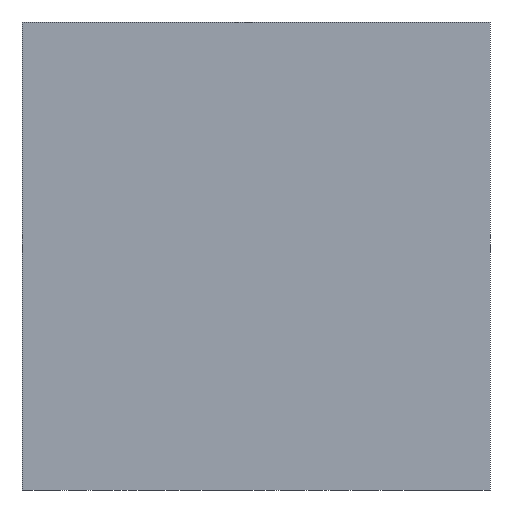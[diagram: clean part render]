
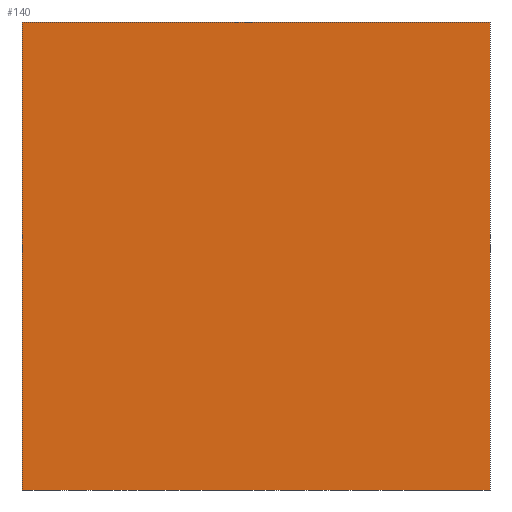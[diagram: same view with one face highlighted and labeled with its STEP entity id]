
A CAD part, front view. The second image highlights one B-rep face of the part: STEP entity #140.
In plain terms, the highlighted planar face has unit normal (0, -1, 0).
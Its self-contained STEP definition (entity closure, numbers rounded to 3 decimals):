
#129 = EDGE_CURVE ( 'NONE', #147, #134, #969, .T. ) ;
#131 = ORIENTED_EDGE ( 'NONE', *, *, #132, .F. ) ;
#132 = EDGE_CURVE ( 'NONE', #134, #136, #970, .T. ) ;
#133 = EDGE_CURVE ( 'NONE', #144, #136, #956, .T. ) ;
#134 = VERTEX_POINT ( 'NONE', #955 ) ;
#135 = ORIENTED_EDGE ( 'NONE', *, *, #138, .T. ) ;
#136 = VERTEX_POINT ( 'NONE', #954 ) ;
#137 = ORIENTED_EDGE ( 'NONE', *, *, #133, .T. ) ;
#138 = EDGE_CURVE ( 'NONE', #147, #144, #964, .T. ) ;
#140 = ADVANCED_FACE ( 'NONE', ( #949 ), #946, .F. ) ;
#141 = EDGE_LOOP ( 'NONE', ( #137, #131, #150, #135 ) ) ;
#144 = VERTEX_POINT ( 'NONE', #950 ) ;
#147 = VERTEX_POINT ( 'NONE', #1002 ) ;
#150 = ORIENTED_EDGE ( 'NONE', *, *, #129, .F. ) ;
#939 = AXIS2_PLACEMENT_3D ( 'NONE', #961, #962, #1003 ) ;
#946 = PLANE ( 'NONE',  #939 ) ;
#947 = DIRECTION ( 'NONE',  ( 0., 0., -1. ) ) ;
#949 = FACE_OUTER_BOUND ( 'NONE', #141, .T. ) ;
#950 = CARTESIAN_POINT ( 'NONE',  ( 0., 0., 0. ) ) ;
#951 = DIRECTION ( 'NONE',  ( 1., 0., 0. ) ) ;
#952 = VECTOR ( 'NONE', #951, 1000. ) ;
#953 = CARTESIAN_POINT ( 'NONE',  ( 0., 0., 0. ) ) ;
#954 = CARTESIAN_POINT ( 'NONE',  ( 40., 0., 0. ) ) ;
#955 = CARTESIAN_POINT ( 'NONE',  ( 40., 0., 40. ) ) ;
#956 = LINE ( 'NONE', #953, #952 ) ;
#957 = DIRECTION ( 'NONE',  ( 0., 0., -1. ) ) ;
#958 = VECTOR ( 'NONE', #957, 1000. ) ;
#960 = CARTESIAN_POINT ( 'NONE',  ( 40., 0., 40. ) ) ;
#961 = CARTESIAN_POINT ( 'NONE',  ( 0., 0., 40. ) ) ;
#962 = DIRECTION ( 'NONE',  ( 0., 1., 0. ) ) ;
#963 = CARTESIAN_POINT ( 'NONE',  ( 0., 0., 40. ) ) ;
#964 = LINE ( 'NONE', #963, #971 ) ;
#966 = DIRECTION ( 'NONE',  ( 1., 0., 0. ) ) ;
#967 = VECTOR ( 'NONE', #966, 1000. ) ;
#968 = CARTESIAN_POINT ( 'NONE',  ( 0., 0., 40. ) ) ;
#969 = LINE ( 'NONE', #968, #967 ) ;
#970 = LINE ( 'NONE', #960, #958 ) ;
#971 = VECTOR ( 'NONE', #947, 1000. ) ;
#1002 = CARTESIAN_POINT ( 'NONE',  ( 0., 0., 40. ) ) ;
#1003 = DIRECTION ( 'NONE',  ( 0., 0., 1. ) ) ;
